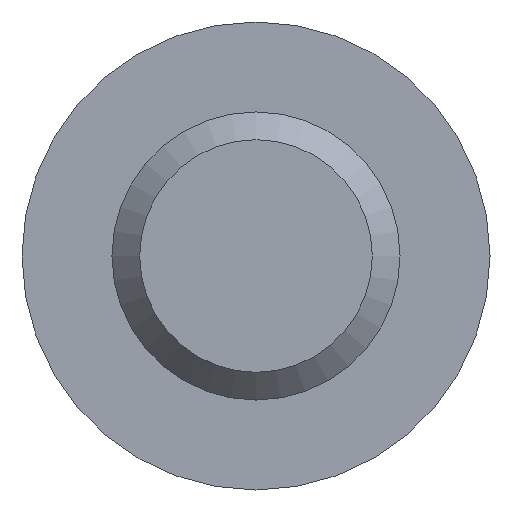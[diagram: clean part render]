
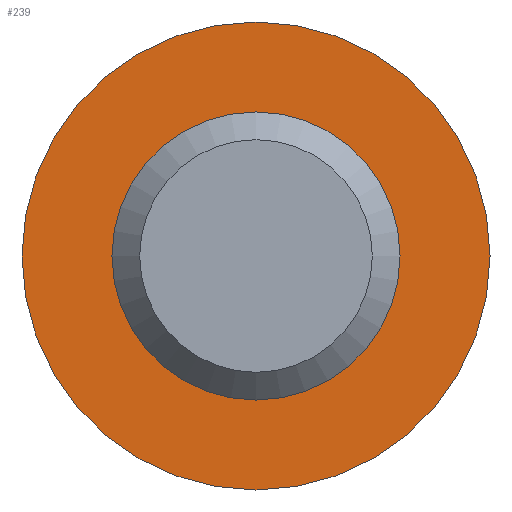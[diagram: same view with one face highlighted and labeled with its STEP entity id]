
A CAD part, front view. The second image highlights one B-rep face of the part: STEP entity #239.
In plain terms, the highlighted planar face has unit normal (0, -1, 0).
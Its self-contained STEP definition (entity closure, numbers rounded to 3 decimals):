
#23=FACE_BOUND('',#64,.T.);
#33=PLANE('',#282);
#48=FACE_OUTER_BOUND('',#63,.T.);
#63=EDGE_LOOP('',(#214));
#64=EDGE_LOOP('',(#215));
#100=CIRCLE('',#265,4.);
#106=CIRCLE('',#275,6.5);
#109=VERTEX_POINT('',#356);
#120=VERTEX_POINT('',#384);
#133=EDGE_CURVE('',#109,#109,#100,.T.);
#146=EDGE_CURVE('',#120,#120,#106,.T.);
#214=ORIENTED_EDGE('',*,*,#146,.T.);
#215=ORIENTED_EDGE('',*,*,#133,.T.);
#239=ADVANCED_FACE('',(#48,#23),#33,.F.);
#265=AXIS2_PLACEMENT_3D('',#358,#296,#297);
#275=AXIS2_PLACEMENT_3D('',#386,#323,#324);
#282=AXIS2_PLACEMENT_3D('',#427,#343,#344);
#296=DIRECTION('center_axis',(0.,1.,0.));
#297=DIRECTION('ref_axis',(-1.,0.,0.));
#323=DIRECTION('center_axis',(0.,-1.,0.));
#324=DIRECTION('ref_axis',(1.,0.,0.));
#343=DIRECTION('center_axis',(0.,1.,0.));
#344=DIRECTION('ref_axis',(0.,0.,1.));
#356=CARTESIAN_POINT('',(4.,0.,0.));
#358=CARTESIAN_POINT('Origin',(0.,0.,0.));
#384=CARTESIAN_POINT('',(-6.5,0.,0.));
#386=CARTESIAN_POINT('Origin',(0.,0.,0.));
#427=CARTESIAN_POINT('Origin',(0.,0.,0.));
